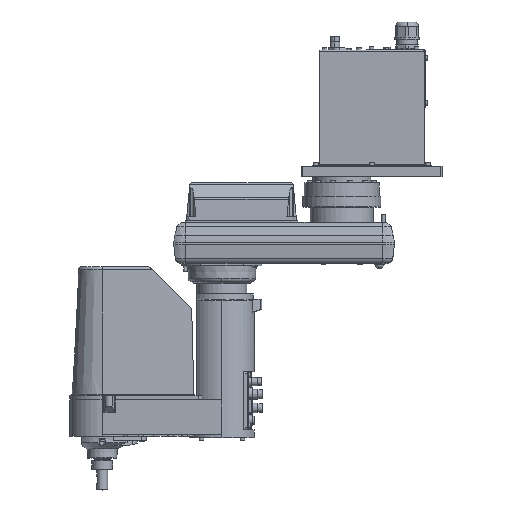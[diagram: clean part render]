
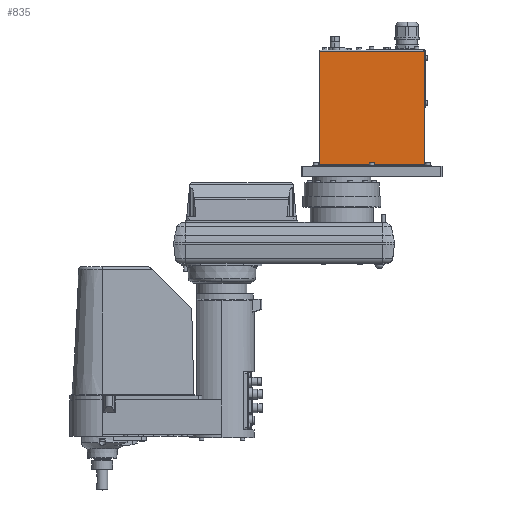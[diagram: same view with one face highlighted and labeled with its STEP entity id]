
A CAD part, top view. The second image highlights one B-rep face of the part: STEP entity #835.
In plain terms, the highlighted planar face has unit normal (0, 0, 1).
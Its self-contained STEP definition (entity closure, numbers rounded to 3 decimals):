
#835 = ADVANCED_FACE( '', ( #3366 ), #3367, .F. );
#3366 = FACE_OUTER_BOUND( '', #7326, .T. );
#3367 = PLANE( '', #7327 );
#7326 = EDGE_LOOP( '', ( #14779, #14780, #14781, #14782 ) );
#7327 = AXIS2_PLACEMENT_3D( '', #14783, #14784, #14785 );
#14779 = ORIENTED_EDGE( '', *, *, #25932, .F. );
#14780 = ORIENTED_EDGE( '', *, *, #26105, .F. );
#14781 = ORIENTED_EDGE( '', *, *, #26106, .F. );
#14782 = ORIENTED_EDGE( '', *, *, #26107, .T. );
#14783 = CARTESIAN_POINT( '', ( -33.4, 253., 60. ) );
#14784 = DIRECTION( '', ( 0., 0., -1. ) );
#14785 = DIRECTION( '', ( 0., 1., 0. ) );
#25932 = EDGE_CURVE( '', #31456, #31458, #31459, .T. );
#26105 = EDGE_CURVE( '', #31723, #31456, #31725, .T. );
#26106 = EDGE_CURVE( '', #31726, #31723, #31727, .T. );
#26107 = EDGE_CURVE( '', #31726, #31458, #31728, .T. );
#31456 = VERTEX_POINT( '', #39640 );
#31458 = VERTEX_POINT( '', #39643 );
#31459 = LINE( '', #39644, #39645 );
#31723 = VERTEX_POINT( '', #40043 );
#31725 = LINE( '', #40045, #40046 );
#31726 = VERTEX_POINT( '', #40047 );
#31727 = LINE( '', #40048, #40049 );
#31728 = LINE( '', #40050, #40051 );
#39640 = CARTESIAN_POINT( '', ( 121., 253., 60. ) );
#39643 = CARTESIAN_POINT( '', ( 121., 87., 60. ) );
#39644 = CARTESIAN_POINT( '', ( 121., 170., 60. ) );
#39645 = VECTOR( '', #50203, 1. );
#40043 = CARTESIAN_POINT( '', ( -33., 253., 60. ) );
#40045 = CARTESIAN_POINT( '', ( -33.4, 253., 60. ) );
#40046 = VECTOR( '', #50452, 1. );
#40047 = CARTESIAN_POINT( '', ( -33., 87., 60. ) );
#40048 = CARTESIAN_POINT( '', ( -33., 253., 60. ) );
#40049 = VECTOR( '', #50453, 1. );
#40050 = CARTESIAN_POINT( '', ( -33.4, 87., 60. ) );
#40051 = VECTOR( '', #50454, 1. );
#50203 = DIRECTION( '', ( 0., -1., 0. ) );
#50452 = DIRECTION( '', ( 1., 0., 0. ) );
#50453 = DIRECTION( '', ( 0., 1., 0. ) );
#50454 = DIRECTION( '', ( 1., 0., 0. ) );
